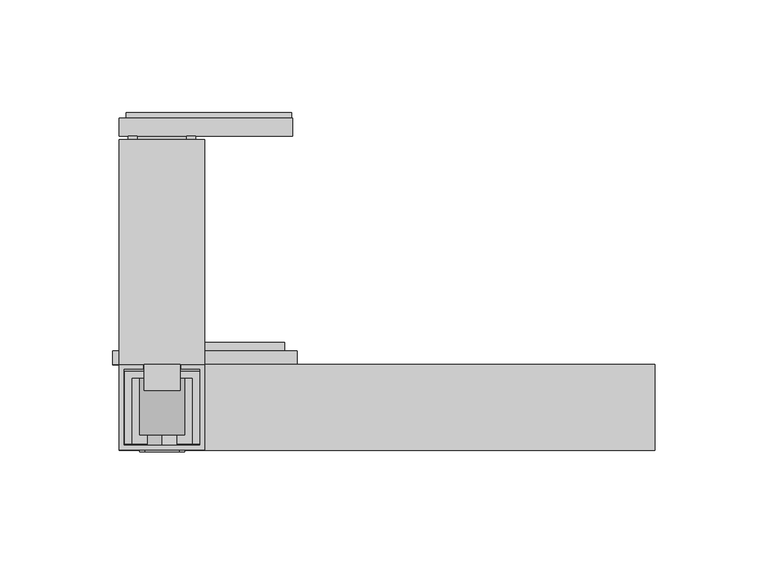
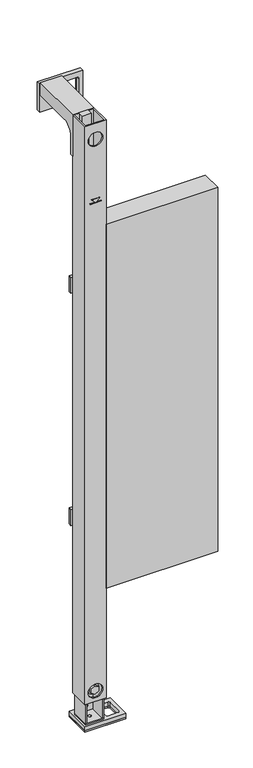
"""IFC4 building model written with IfcOpenShell, lengths in millimetres: flow terminal geometry, nextVIT Stütz-Stützklappgriff-Element : nextVIT Stütz-Stützklappgriff-Element."""

from ifc_helpers import new_model, si_unit, point, frame, frame_2d, origin, origin_with_axes, place, context, project, spatial, polyline, circle_curve, trimmed, segment, composite_curve, outline, extrude, source, transform, mapped, element, save
from ifc_brep_helpers import plane_surface, revolved_surface, advanced_brep


def flow_terminal_e19c1c6e(model_context):
    return source(origin(), model_context, "Body", "SolidModel", [
        extrude(outline(polyline([(-45.5, -102.0), (-45.5, -150.0), (-119.0, -150.0), (-119.0, -102.0), (-45.5, -102.0)]), holes=[composite_curve([segment(polyline([(-52.0, -139.0), (-52.0, -113.0)]), True, "CONTINUOUS"), segment(trimmed(circle_curve(frame_2d((-55.0, -113.0)), 3.0), [point((-52.0, -113.0))], [point((-55.0, -110.0))], True, "CARTESIAN"), True, "CONTINUOUS"), segment(polyline([(-55.0, -110.0), (-72.5, -110.0)]), True, "CONTINUOUS"), segment(trimmed(circle_curve(frame_2d((-72.5, -113.0)), 3.0), [point((-72.5, -110.0))], [point((-75.5, -113.0))], True, "CARTESIAN"), True, "CONTINUOUS"), segment(polyline([(-75.5, -113.0), (-75.5, -139.0)]), True, "CONTINUOUS"), segment(trimmed(circle_curve(frame_2d((-72.5, -139.0)), 3.0), [point((-75.5, -139.0))], [point((-72.5, -142.0))], True, "CARTESIAN"), True, "CONTINUOUS"), segment(polyline([(-72.5, -142.0), (-55.0, -142.0)]), True, "CONTINUOUS"), segment(trimmed(circle_curve(frame_2d((-55.0, -139.0)), 3.0), [point((-55.0, -142.0))], [point((-52.0, -139.0))], True, "CARTESIAN"), True, "CONTINUOUS")], self_intersect=False)]), origin_with_axes(), (0.0, 0.0, 1.0), 2.5),
        extrude(outline(polyline([(-45.5, -102.0), (-45.5, -150.0), (-119.0, -150.0), (-119.0, -102.0), (-45.5, -102.0)]), holes=[composite_curve([segment(polyline([(-52.0, -139.0), (-52.0, -113.0)]), True, "CONTINUOUS"), segment(trimmed(circle_curve(frame_2d((-55.0, -113.0)), 3.0), [point((-52.0, -113.0))], [point((-55.0, -110.0))], True, "CARTESIAN"), True, "CONTINUOUS"), segment(polyline([(-55.0, -110.0), (-72.5, -110.0)]), True, "CONTINUOUS"), segment(trimmed(circle_curve(frame_2d((-72.5, -113.0)), 3.0), [point((-72.5, -110.0))], [point((-75.5, -113.0))], True, "CARTESIAN"), True, "CONTINUOUS"), segment(polyline([(-75.5, -113.0), (-75.5, -139.0)]), True, "CONTINUOUS"), segment(trimmed(circle_curve(frame_2d((-72.5, -139.0)), 3.0), [point((-75.5, -139.0))], [point((-72.5, -142.0))], True, "CARTESIAN"), True, "CONTINUOUS"), segment(polyline([(-72.5, -142.0), (-55.0, -142.0)]), True, "CONTINUOUS"), segment(trimmed(circle_curve(frame_2d((-55.0, -139.0)), 3.0), [point((-55.0, -142.0))], [point((-52.0, -139.0))], True, "CARTESIAN"), True, "CONTINUOUS")], self_intersect=False), composite_curve([segment(polyline([(-104.7, -121.0), (-104.7, -131.0)]), True, "CONTINUOUS"), segment(trimmed(circle_curve(frame_2d((-101.45, -131.0)), 3.25), [point((-104.7, -131.0))], [point((-98.2, -131.0))], True, "CARTESIAN"), True, "CONTINUOUS"), segment(polyline([(-98.2, -131.0), (-98.2, -121.0)]), True, "CONTINUOUS"), segment(trimmed(circle_curve(frame_2d((-101.45, -121.0)), 3.25), [point((-98.2, -121.0))], [point((-104.7, -121.0))], True, "CARTESIAN"), True, "CONTINUOUS")], self_intersect=False)]), frame((0.0, 0.0, 2.5), z_axis=(0.0, 0.0, 1.0), x_axis=(1.0, 0.0, 0.0)), (0.0, 0.0, 1.0), 8.0),
        extrude(outline(polyline([(1141.522581, -42.5), (1141.522581, -116.0), (1093.522581, -116.0), (1093.522581, -42.5), (1141.522581, -42.5)]), holes=[composite_curve([segment(trimmed(circle_curve(frame_2d((1104.522581, -52.0)), 3.0), [point((1104.522581, -49.0))], [point((1101.522581, -52.0))], True, "CARTESIAN"), True, "CONTINUOUS"), segment(polyline([(1101.522581, -52.0), (1101.522581, -69.5)]), True, "CONTINUOUS"), segment(trimmed(circle_curve(frame_2d((1104.522581, -69.5)), 3.0), [point((1101.522581, -69.5))], [point((1104.522581, -72.5))], True, "CARTESIAN"), True, "CONTINUOUS"), segment(polyline([(1104.522581, -72.5), (1130.522581, -72.5)]), True, "CONTINUOUS"), segment(trimmed(circle_curve(frame_2d((1130.522581, -69.5)), 3.0), [point((1130.522581, -72.5))], [point((1133.522581, -69.5))], True, "CARTESIAN"), True, "CONTINUOUS"), segment(polyline([(1133.522581, -69.5), (1133.522581, -52.0)]), True, "CONTINUOUS"), segment(trimmed(circle_curve(frame_2d((1130.522581, -52.0)), 3.0), [point((1133.522581, -52.0))], [point((1130.522581, -49.0))], True, "CARTESIAN"), True, "CONTINUOUS"), segment(polyline([(1130.522581, -49.0), (1104.522581, -49.0)]), True, "CONTINUOUS")], self_intersect=False)]), frame((0.0, -2.5, 0.0), z_axis=(0.0, 1.0, 0.0), x_axis=(0.0, 0.0, 1.0)), (0.0, 0.0, 1.0), 2.5),
        extrude(outline(polyline([(-92.0, -112.0), (-92.0, -123.5), (-108.0, -123.5), (-108.0, -112.0), (-92.0, -112.0)])), frame((0.0, 0.0, 1113.0), z_axis=(0.0, 0.0, 1.0), x_axis=(1.0, 0.0, 0.0)), (0.0, 0.0, 1.0), 35.0),
        extrude(outline(polyline([(1144.022581, -119.0), (1091.022581, -119.0), (1091.022581, -42.0), (1144.022581, -42.0), (1144.022581, -119.0)]), holes=[composite_curve([segment(polyline([(1133.522581, -69.5), (1133.522581, -52.0)]), True, "CONTINUOUS"), segment(trimmed(circle_curve(frame_2d((1130.522581, -52.0)), 3.0), [point((1133.522581, -52.0))], [point((1130.522581, -49.0))], True, "CARTESIAN"), True, "CONTINUOUS"), segment(polyline([(1130.522581, -49.0), (1104.522581, -49.0)]), True, "CONTINUOUS"), segment(trimmed(circle_curve(frame_2d((1104.522581, -52.0)), 3.0), [point((1104.522581, -49.0))], [point((1101.522581, -52.0))], True, "CARTESIAN"), True, "CONTINUOUS"), segment(polyline([(1101.522581, -52.0), (1101.522581, -69.5)]), True, "CONTINUOUS"), segment(trimmed(circle_curve(frame_2d((1104.522581, -69.5)), 3.0), [point((1101.522581, -69.5))], [point((1104.522581, -72.5))], True, "CARTESIAN"), True, "CONTINUOUS"), segment(polyline([(1104.522581, -72.5), (1130.522581, -72.5)]), True, "CONTINUOUS"), segment(trimmed(circle_curve(frame_2d((1130.522581, -69.5)), 3.0), [point((1130.522581, -72.5))], [point((1133.522581, -69.5))], True, "CARTESIAN"), True, "CONTINUOUS")], self_intersect=False)]), frame((0.0, -10.5, 0.0), z_axis=(0.0, 1.0, 0.0), x_axis=(0.0, 0.0, 1.0)), (0.0, 0.0, 1.0), 8.0),
        extrude(outline(polyline([(1128.022581, -89.05), (1128.022581, -110.95), (1145.0, -110.95), (1145.0, -114.95), (1124.5225837, -114.95), (1124.5225837, -85.05), (1145.0, -85.05), (1145.0, -89.05), (1128.022581, -89.05)])), frame((0.0, -105.0, 0.0), z_axis=(0.0, 1.0, 0.0), x_axis=(0.0, 0.0, 1.0)), (0.0, 0.0, 1.0), 94.5),
        advanced_brep(
        [(-81.0, -12.0882353, 1124.0), (-81.0, -12.0882353, 1148.0), (-81.0, -112.0, 1148.0), (-81.0, -112.0, 1069.0231613), (-81.0, -106.0, 1069.0231613), (-81.0, -106.0, 1104.0), (-81.0, -86.0, 1124.0), (-119.0, -12.0882353, 1124.0), (-119.0, -86.0, 1124.0), (-119.0, -106.0, 1104.0), (-119.0, -106.0, 1069.0231613), (-119.0, -112.0, 1069.0231613), (-119.0, -112.0, 1148.0), (-119.0, -12.0882353, 1148.0), (-84.0, -12.0882353, 1124.0), (-84.0, -12.0882353, 1144.0), (-116.0, -12.0882353, 1144.0), (-116.0, -12.0882353, 1124.0), (-116.0, -106.0, 1104.0), (-116.0, -106.0, 1144.0), (-84.0, -106.0, 1144.0), (-84.0, -106.0, 1104.0), (-84.0, -86.0, 1124.0), (-116.0, -86.0, 1124.0)],
        [
            (0, 1),
            (1, 2),
            (2, 3),
            (3, 4),
            (4, 5),
            (5, 6, circle_curve(frame((-81.0, -86.0, 1104.0), z_axis=(-1.0, 0.0, 0.0), x_axis=(0.0, 1.0, 0.0)), 20.0)),
            (6, 0),
            (7, 8),
            (8, 9, circle_curve(frame((-119.0, -86.0, 1104.0), z_axis=(1.0, 0.0, 0.0), x_axis=(0.0, 1.0, 0.0)), 20.0)),
            (9, 10),
            (10, 11),
            (11, 12),
            (12, 13),
            (13, 7),
            (0, 14),
            (14, 15),
            (15, 16),
            (16, 17),
            (17, 7),
            (13, 1),
            (12, 2),
            (11, 3),
            (10, 4),
            (9, 18),
            (18, 19),
            (19, 20),
            (20, 21),
            (21, 5),
            (21, 22, circle_curve(frame((-84.0, -86.0, 1104.0), z_axis=(-1.0, 0.0, 0.0), x_axis=(0.0, 1.0, 0.0)), 20.0)),
            (22, 6),
            (8, 23),
            (23, 18, circle_curve(frame((-116.0, -86.0, 1104.0), z_axis=(1.0, 0.0, 0.0), x_axis=(0.0, 1.0, 0.0)), 20.0)),
            (22, 14),
            (17, 23),
            (20, 15),
            (19, 16),
        ],
        [
            plane_surface(frame((-81.0, -12.0882353, 1124.0), z_axis=(1.0, 0.0, 0.0), x_axis=(0.0, 0.0, 1.0))),
            plane_surface(frame((-119.0, -12.0882353, 1124.0), z_axis=(-1.0, 0.0, 0.0), x_axis=(0.0, 0.0, -1.0))),
            plane_surface(frame((-81.0, -12.0882353, 1124.0), z_axis=(0.0, 1.0, 0.0), x_axis=(-1.0, 0.0, 0.0))),
            plane_surface(frame((-81.0, -12.0882353, 1148.0), z_axis=(0.0, 0.0, 1.0), x_axis=(-1.0, 0.0, 0.0))),
            plane_surface(frame((-81.0, -112.0, 1148.0), z_axis=(0.0, -1.0, 0.0), x_axis=(-1.0, 0.0, 0.0))),
            plane_surface(frame((-81.0, -112.0, 1069.0231613), z_axis=(0.0, 0.0, -1.0), x_axis=(-1.0, 0.0, 0.0))),
            plane_surface(frame((-81.0, -106.0, 1069.0231613), z_axis=(0.0, 1.0, 0.0), x_axis=(-1.0, 0.0, 0.0))),
            revolved_surface(polyline([(-84.0, -66.0, 1104.0), (-81.0, -66.0, 1104.0)]), (-119.0, -86.0, 1104.0), (-1.0, 0.0, 0.0)),
            revolved_surface(polyline([(-119.0, -66.0, 1104.0), (-116.0, -66.0, 1104.0)]), (-119.0, -86.0, 1104.0), (-1.0, 0.0, 0.0)),
            plane_surface(frame((-81.0, -86.0, 1124.0), z_axis=(0.0, 0.0, -1.0), x_axis=(-1.0, 0.0, 0.0))),
            plane_surface(frame((-84.0, -106.0, 1102.9875977), z_axis=(-1.0, 0.0, 0.0), x_axis=(0.0, 1.0, 0.0))),
            plane_surface(frame((-84.0, -106.0, 1144.0), z_axis=(0.0, 0.0, -1.0), x_axis=(0.0, 1.0, 0.0))),
            plane_surface(frame((-116.0, -106.0, 1144.0), z_axis=(1.0, 0.0, 0.0), x_axis=(0.0, 1.0, 0.0))),
        ],
        [
            (0, [[1, 2, 3, 4, 5, 6, 7]]),
            (1, [[8, 9, 10, 11, 12, 13, 14]]),
            (2, [[-1, 15, 16, 17, 18, 19, -14, 20]]),
            (3, [[-2, -20, -13, 21]]),
            (4, [[-3, -21, -12, 22]]),
            (5, [[-4, -22, -11, 23]]),
            (6, [[-5, -23, -10, 24, 25, 26, 27, 28]]),
            (7, [[-6, -28, 29, 30]]),
            (8, [[-9, 31, 32, -24]]),
            (9, [[-7, -30, 33, -15]]),
            (9, [[-8, -19, 34, -31]]),
            (10, [[35, -16, -33, -29, -27]]),
            (11, [[-26, 36, -17, -35]]),
            (12, [[-36, -25, -32, -34, -18]]),
        ],
    ),
        advanced_brep(
        [(-113.6, -147.1, 363.5), (-113.6, -117.9, 363.5), (-86.4, -117.9, 363.5), (-86.4, -147.1, 363.5), (-83.4, -147.1, 363.5), (-83.4, -114.9, 363.5), (-116.6, -114.9, 363.5), (-116.6, -147.1, 363.5), (-113.6, -147.1, 13.5), (-116.6, -147.1, 13.5), (-116.6, -114.9, 13.5), (-83.4, -114.9, 13.5), (-83.4, -147.1, 13.5), (-86.4, -147.1, 13.5), (-86.4, -117.9, 13.5), (-113.6, -117.9, 13.5), (-95.5, -114.9, 23.6801435), (-104.5, -114.9, 23.6801435), (-95.0, -114.9, 37.7), (-95.0, -114.9, 335.5), (-105.0, -114.9, 335.5), (-105.0, -114.9, 37.7), (-104.5, -117.9, 23.6801435), (-95.5, -117.9, 23.6801435), (-95.0, -117.9, 335.5), (-95.0, -117.9, 37.7), (-105.0, -117.9, 37.7), (-105.0, -117.9, 335.5)],
        [
            (0, 1),
            (1, 2),
            (2, 3),
            (3, 4),
            (4, 5),
            (5, 6),
            (6, 7),
            (7, 0),
            (8, 9),
            (9, 10),
            (10, 11),
            (11, 12),
            (12, 13),
            (13, 14),
            (14, 15),
            (15, 8),
            (4, 12),
            (11, 5),
            (10, 6),
            (16, 17, circle_curve(frame((-100.0, -114.9, 23.6801435), z_axis=(0.0, -1.0, 0.0), x_axis=(-1.0, 0.0, 0.0)), 4.5)),
            (17, 16, circle_curve(frame((-100.0, -114.9, 23.6801435), z_axis=(0.0, -1.0, 0.0), x_axis=(-1.0, 0.0, 0.0)), 4.5)),
            (18, 19),
            (19, 20, circle_curve(frame((-100.0, -114.9, 335.5), z_axis=(0.0, -1.0, 0.0), x_axis=(-1.0, 0.0, 0.0)), 5.0)),
            (20, 21),
            (21, 18, circle_curve(frame((-100.0, -114.9, 37.7), z_axis=(0.0, -1.0, 0.0), x_axis=(-1.0, 0.0, 0.0)), 5.0)),
            (9, 7),
            (8, 0),
            (15, 1),
            (14, 2),
            (22, 23, circle_curve(frame((-100.0, -117.9, 23.6801435), z_axis=(0.0, 1.0, 0.0), x_axis=(-1.0, 0.0, 0.0)), 4.5)),
            (23, 22, circle_curve(frame((-100.0, -117.9, 23.6801435), z_axis=(0.0, 1.0, 0.0), x_axis=(-1.0, 0.0, 0.0)), 4.5)),
            (24, 25),
            (25, 26, circle_curve(frame((-100.0, -117.9, 37.7), z_axis=(0.0, 1.0, 0.0), x_axis=(-1.0, 0.0, 0.0)), 5.0)),
            (26, 27),
            (27, 24, circle_curve(frame((-100.0, -117.9, 335.5), z_axis=(0.0, 1.0, 0.0), x_axis=(-1.0, 0.0, 0.0)), 5.0)),
            (13, 3),
            (22, 17),
            (16, 23),
            (24, 19),
            (18, 25),
            (27, 20),
            (26, 21),
        ],
        [
            plane_surface(frame((-113.6, -147.1, 363.5), z_axis=(0.0, 0.0, 1.0), x_axis=(0.0, 1.0, 0.0))),
            plane_surface(frame((-113.6, -147.1, 13.5), z_axis=(0.0, 0.0, -1.0), x_axis=(0.0, -1.0, 0.0))),
            plane_surface(frame((-83.4, -147.1, 363.5), z_axis=(1.0, 0.0, 0.0), x_axis=(0.0, 0.0, -1.0))),
            plane_surface(frame((-83.4, -114.9, 363.5), z_axis=(0.0, 1.0, 0.0), x_axis=(0.0, 0.0, -1.0))),
            plane_surface(frame((-116.6, -114.9, 363.5), z_axis=(-1.0, 0.0, 0.0), x_axis=(0.0, 0.0, -1.0))),
            plane_surface(frame((-116.6, -147.1, 363.5), z_axis=(0.0, -1.0, 0.0), x_axis=(0.0, 0.0, -1.0))),
            plane_surface(frame((-113.6, -147.1, 363.5), z_axis=(1.0, 0.0, 0.0), x_axis=(0.0, 0.0, -1.0))),
            plane_surface(frame((-113.6, -117.9, 363.5), z_axis=(0.0, -1.0, 0.0), x_axis=(0.0, 0.0, -1.0))),
            plane_surface(frame((-86.4, -117.9, 363.5), z_axis=(-1.0, 0.0, 0.0), x_axis=(0.0, 0.0, -1.0))),
            plane_surface(frame((-86.4, -147.1, 363.5), z_axis=(0.0, -1.0, 0.0), x_axis=(0.0, 0.0, -1.0))),
            revolved_surface(polyline([(-104.5, -117.9, 23.6801435), (-104.5, -114.9, 23.6801435)]), (-100.0, -117.9, 23.6801435), (0.0, -1.0, 0.0)),
            plane_surface(frame((-95.0, -117.9, 37.7), z_axis=(-1.0, 0.0, 0.0), x_axis=(0.0, 1.0, 0.0))),
            revolved_surface(polyline([(-105.0, -117.9, 335.5), (-105.0, -114.9, 335.5)]), (-100.0, -117.9, 335.5), (0.0, -1.0, 0.0)),
            plane_surface(frame((-105.0, -117.9, 335.5), z_axis=(1.0, 0.0, 0.0), x_axis=(0.0, 1.0, 0.0))),
            revolved_surface(polyline([(-105.0, -117.9, 37.7), (-105.0, -114.9, 37.7)]), (-100.0, -117.9, 37.7), (0.0, -1.0, 0.0)),
        ],
        [
            (0, [[1, 2, 3, 4, 5, 6, 7, 8]]),
            (1, [[9, 10, 11, 12, 13, 14, 15, 16]]),
            (2, [[-5, 17, -12, 18]]),
            (3, [[-6, -18, -11, 19], [20, 21], [22, 23, 24, 25]]),
            (4, [[-7, -19, -10, 26]]),
            (5, [[-8, -26, -9, 27]]),
            (6, [[-1, -27, -16, 28]]),
            (7, [[-2, -28, -15, 29], [30, 31], [32, 33, 34, 35]]),
            (8, [[-3, -29, -14, 36]]),
            (9, [[-4, -36, -13, -17]]),
            (10, [[37, -20, 38, -30]]),
            (10, [[-37, -31, -38, -21]]),
            (11, [[39, -22, 40, -32]]),
            (12, [[-39, -35, 41, -23]]),
            (13, [[-41, -34, 42, -24]]),
            (14, [[-40, -25, -42, -33]]),
        ],
    ),
        extrude(outline(polyline([(-83.4, -147.1), (-116.6, -147.1), (-116.6, -114.9), (-83.4, -114.9), (-83.4, -147.1)]), holes=[composite_curve([segment(trimmed(circle_curve(frame_2d((-100.0, -131.9)), 2.5), [point((-97.5, -131.9))], [point((-102.5, -131.9))], True, "CARTESIAN"), True, "CONTINUOUS"), segment(trimmed(circle_curve(frame_2d((-100.0, -131.9)), 2.5), [point((-102.5, -131.9))], [point((-97.5, -131.9))], True, "CARTESIAN"), True, "CONTINUOUS")], self_intersect=False)]), frame((0.0, 0.0, 10.5), z_axis=(0.0, 0.0, 1.0), x_axis=(1.0, 0.0, 0.0)), (0.0, 0.0, 1.0), 3.0),
        extrude(outline(composite_curve([segment(trimmed(circle_curve(frame_2d((72.2, -100.0)), 4.0), [point((72.2, -104.0))], [point((72.2, -96.0))], False, "CARTESIAN"), True, "CONTINUOUS"), segment(trimmed(circle_curve(frame_2d((72.2, -100.0)), 4.0), [point((72.2, -96.0))], [point((72.2, -104.0))], False, "CARTESIAN"), True, "CONTINUOUS")], self_intersect=False)), frame((0.0, -117.0, 0.0), z_axis=(0.0, 1.0, 0.0), x_axis=(0.0, 0.0, 1.0)), (0.0, 0.0, 1.0), 19.0),
        extrude(outline(polyline([(-115.0, -109.0), (-85.0, -109.0), (-85.0, -112.0), (-115.0, -112.0), (-115.0, -109.0)])), frame((0.0, 0.0, 52.2), z_axis=(0.0, 0.0, 1.0), x_axis=(1.0, 0.0, 0.0)), (0.0, 0.0, 1.0), 40.0),
        extrude(outline(composite_curve([segment(trimmed(circle_curve(frame_2d((72.2, -100.0)), 10.0), [point((72.2, -110.0))], [point((72.2, -90.0))], False, "CARTESIAN"), True, "CONTINUOUS"), segment(trimmed(circle_curve(frame_2d((72.2, -100.0)), 10.0), [point((72.2, -90.0))], [point((72.2, -110.0))], False, "CARTESIAN"), True, "CONTINUOUS")], self_intersect=False)), frame((0.0, -143.0, 0.0), z_axis=(0.0, 1.0, 0.0), x_axis=(0.0, 0.0, 1.0)), (0.0, 0.0, 1.0), 26.0),
        extrude(outline(polyline([(79.7055535, -100.0), (75.9527767, -106.5), (68.4472233, -106.5), (64.6944465, -100.0), (68.4472233, -93.5), (75.9527767, -93.5), (79.7055535, -100.0)])), frame((0.0, -148.3, 0.0), z_axis=(0.0, 1.0, 0.0), x_axis=(0.0, 0.0, 1.0)), (0.0, 0.0, 1.0), 5.3),
        extrude(outline(polyline([(998.0, -90.0), (998.8, -90.0), (998.8, -99.2), (1005.5, -92.5), (1005.5, -107.5), (998.8, -100.8), (998.8, -109.9917762), (998.0, -109.9917762), (998.0, -90.0)])), frame((0.0, -150.8323234, 0.0), z_axis=(0.0, 1.0, 0.0), x_axis=(0.0, 0.0, 1.0)), (0.0, 0.0, 1.0), 0.8323234),
        advanced_brep(
        [(-119.0, -112.0, 1148.0), (-119.0, -150.0, 1148.0), (-81.0, -150.0, 1148.0), (-81.0, -112.0, 1148.0), (-91.5, -112.0, 1148.0), (-91.5, -114.0, 1148.0), (-83.0, -114.0, 1148.0), (-83.0, -148.0, 1148.0), (-117.0, -148.0, 1148.0), (-117.0, -114.0, 1148.0), (-108.5, -114.0, 1148.0), (-108.5, -112.0, 1148.0), (-119.0, -112.0, 52.0), (-108.5, -112.0, 52.0), (-108.5, -114.0, 52.0), (-117.0, -114.0, 52.0), (-117.0, -148.0, 52.0), (-83.0, -148.0, 52.0), (-83.0, -114.0, 52.0), (-91.5, -114.0, 52.0), (-91.5, -112.0, 52.0), (-81.0, -112.0, 52.0), (-81.0, -150.0, 52.0), (-119.0, -150.0, 52.0), (-87.0, -150.0, 72.0), (-113.0, -150.0, 72.0), (-87.0, -150.0, 1118.0), (-113.0, -150.0, 1118.0), (-113.0, -148.0, 72.0), (-87.0, -148.0, 72.0), (-113.0, -148.0, 1118.0), (-87.0, -148.0, 1118.0)],
        [
            (0, 1),
            (1, 2),
            (2, 3),
            (3, 4),
            (4, 5),
            (5, 6),
            (6, 7),
            (7, 8),
            (8, 9),
            (9, 10),
            (10, 11),
            (11, 0),
            (12, 13),
            (13, 14),
            (14, 15),
            (15, 16),
            (16, 17),
            (17, 18),
            (18, 19),
            (19, 20),
            (20, 21),
            (21, 22),
            (22, 23),
            (23, 12),
            (0, 12),
            (23, 1),
            (22, 2),
            (24, 25, circle_curve(frame((-100.0, -150.0, 72.0), z_axis=(0.0, 1.0, 0.0), x_axis=(1.0, 0.0, 0.0)), 13.0)),
            (25, 24, circle_curve(frame((-100.0, -150.0, 72.0), z_axis=(0.0, 1.0, 0.0), x_axis=(1.0, 0.0, 0.0)), 13.0)),
            (26, 27, circle_curve(frame((-100.0, -150.0, 1118.0), z_axis=(0.0, 1.0, 0.0), x_axis=(1.0, 0.0, 0.0)), 13.0)),
            (27, 26, circle_curve(frame((-100.0, -150.0, 1118.0), z_axis=(0.0, 1.0, 0.0), x_axis=(1.0, 0.0, 0.0)), 13.0)),
            (21, 3),
            (20, 4),
            (19, 5),
            (18, 6),
            (17, 7),
            (16, 8),
            (28, 29, circle_curve(frame((-100.0, -148.0, 72.0), z_axis=(0.0, -1.0, 0.0), x_axis=(1.0, 0.0, 0.0)), 13.0)),
            (29, 28, circle_curve(frame((-100.0, -148.0, 72.0), z_axis=(0.0, -1.0, 0.0), x_axis=(1.0, 0.0, 0.0)), 13.0)),
            (30, 31, circle_curve(frame((-100.0, -148.0, 1118.0), z_axis=(0.0, -1.0, 0.0), x_axis=(1.0, 0.0, 0.0)), 13.0)),
            (31, 30, circle_curve(frame((-100.0, -148.0, 1118.0), z_axis=(0.0, -1.0, 0.0), x_axis=(1.0, 0.0, 0.0)), 13.0)),
            (15, 9),
            (14, 10),
            (13, 11),
            (28, 25),
            (24, 29),
            (30, 27),
            (26, 31),
        ],
        [
            plane_surface(frame((-119.0, -150.0, 1148.0), z_axis=(0.0, 0.0, 1.0), x_axis=(0.0, -1.0, 0.0))),
            plane_surface(frame((-119.0, -150.0, 52.0), z_axis=(0.0, 0.0, -1.0), x_axis=(0.0, 1.0, 0.0))),
            plane_surface(frame((-119.0, -112.0, 1148.0), z_axis=(-1.0, 0.0, 0.0), x_axis=(0.0, 0.0, -1.0))),
            plane_surface(frame((-119.0, -150.0, 1148.0), z_axis=(0.0, -1.0, 0.0), x_axis=(0.0, 0.0, -1.0))),
            plane_surface(frame((-81.0, -150.0, 1148.0), z_axis=(1.0, 0.0, 0.0), x_axis=(0.0, 0.0, -1.0))),
            plane_surface(frame((-81.0, -112.0, 1148.0), z_axis=(0.0, 1.0, 0.0), x_axis=(0.0, 0.0, -1.0))),
            plane_surface(frame((-91.5, -112.0, 1148.0), z_axis=(-1.0, 0.0, 0.0), x_axis=(0.0, 0.0, -1.0))),
            plane_surface(frame((-91.5, -114.0, 1148.0), z_axis=(0.0, -1.0, 0.0), x_axis=(0.0, 0.0, -1.0))),
            plane_surface(frame((-83.0, -114.0, 1148.0), z_axis=(-1.0, 0.0, 0.0), x_axis=(0.0, 0.0, -1.0))),
            plane_surface(frame((-83.0, -148.0, 1148.0), z_axis=(0.0, 1.0, 0.0), x_axis=(0.0, 0.0, -1.0))),
            plane_surface(frame((-117.0, -148.0, 1148.0), z_axis=(1.0, 0.0, 0.0), x_axis=(0.0, 0.0, -1.0))),
            plane_surface(frame((-117.0, -114.0, 1148.0), z_axis=(0.0, -1.0, 0.0), x_axis=(0.0, 0.0, -1.0))),
            plane_surface(frame((-108.5, -114.0, 1148.0), z_axis=(1.0, 0.0, 0.0), x_axis=(0.0, 0.0, -1.0))),
            plane_surface(frame((-108.5, -112.0, 1148.0), z_axis=(0.0, 1.0, 0.0), x_axis=(0.0, 0.0, -1.0))),
            revolved_surface(polyline([(-87.0, -148.0, 72.0), (-87.0, -150.0, 72.0)]), (-100.0, -148.0, 72.0), (0.0, 1.0, 0.0)),
            revolved_surface(polyline([(-87.0, -148.0, 1118.0), (-87.0, -150.0, 1118.0)]), (-100.0, -148.0, 1118.0), (0.0, 1.0, 0.0)),
        ],
        [
            (0, [[1, 2, 3, 4, 5, 6, 7, 8, 9, 10, 11, 12]]),
            (1, [[13, 14, 15, 16, 17, 18, 19, 20, 21, 22, 23, 24]]),
            (2, [[-1, 25, -24, 26]]),
            (3, [[-2, -26, -23, 27], [28, 29], [30, 31]]),
            (4, [[-3, -27, -22, 32]]),
            (5, [[-4, -32, -21, 33]]),
            (6, [[-5, -33, -20, 34]]),
            (7, [[-6, -34, -19, 35]]),
            (8, [[-7, -35, -18, 36]]),
            (9, [[-8, -36, -17, 37], [38, 39], [40, 41]]),
            (10, [[-9, -37, -16, 42]]),
            (11, [[-10, -42, -15, 43]]),
            (12, [[-11, -43, -14, 44]]),
            (13, [[-12, -44, -13, -25]]),
            (14, [[45, -28, 46, -38]]),
            (14, [[-45, -39, -46, -29]]),
            (15, [[47, -30, 48, -40]]),
            (15, [[-47, -41, -48, -31]]),
        ],
    ),
        extrude(outline(polyline([(119.0, -112.0), (119.0, -150.0), (-81.0, -150.0), (-81.0, -112.0), (119.0, -112.0)])), frame((0.0, 0.0, 260.0), z_axis=(0.0, 0.0, 1.0), x_axis=(1.0, 0.0, 0.0)), (0.0, 0.0, 1.0), 690.0),
        extrude(outline(polyline([(840.0, -122.0), (810.0, -122.0), (810.0, -40.0), (840.0, -40.0), (840.0, -122.0)]), holes=[composite_curve([segment(trimmed(circle_curve(frame_2d((825.0, -55.0)), 5.0), [point((825.0, -60.0))], [point((825.0, -50.0))], True, "CARTESIAN"), True, "CONTINUOUS"), segment(trimmed(circle_curve(frame_2d((825.0, -55.0)), 5.0), [point((825.0, -50.0))], [point((825.0, -60.0))], True, "CARTESIAN"), True, "CONTINUOUS")], self_intersect=False), composite_curve([segment(trimmed(circle_curve(frame_2d((825.0, -104.0)), 4.5), [point((825.0, -108.5))], [point((825.0, -99.5))], True, "CARTESIAN"), True, "CONTINUOUS"), segment(trimmed(circle_curve(frame_2d((825.0, -104.0)), 4.5), [point((825.0, -99.5))], [point((825.0, -108.5))], True, "CARTESIAN"), True, "CONTINUOUS")], self_intersect=False)]), frame((0.0, -112.0, 0.0), z_axis=(0.0, 1.0, 0.0), x_axis=(0.0, 0.0, 1.0)), (0.0, 0.0, 1.0), 6.0),
        extrude(outline(polyline([(400.0, -40.0), (400.0, -122.0), (370.0, -122.0), (370.0, -40.0), (400.0, -40.0)]), holes=[composite_curve([segment(trimmed(circle_curve(frame_2d((385.0, -55.0)), 5.0), [point((385.0, -50.0))], [point((385.0, -60.0))], True, "CARTESIAN"), True, "CONTINUOUS"), segment(trimmed(circle_curve(frame_2d((385.0, -55.0)), 5.0), [point((385.0, -60.0))], [point((385.0, -50.0))], True, "CARTESIAN"), True, "CONTINUOUS")], self_intersect=False), composite_curve([segment(trimmed(circle_curve(frame_2d((385.0, -104.0)), 4.5), [point((385.0, -99.5))], [point((385.0, -108.5))], True, "CARTESIAN"), True, "CONTINUOUS"), segment(trimmed(circle_curve(frame_2d((385.0, -104.0)), 4.5), [point((385.0, -108.5))], [point((385.0, -99.5))], True, "CARTESIAN"), True, "CONTINUOUS")], self_intersect=False)]), frame((0.0, -112.0, 0.0), z_axis=(0.0, 1.0, 0.0), x_axis=(0.0, 0.0, 1.0)), (0.0, 0.0, 1.0), 6.0),
    ])


if __name__ == "__main__":
    model = new_model("IFC4")
    model_context = context("Model", 3, world=origin())
    ifc_project = project(units=[si_unit("LENGTHUNIT", "METRE", prefix="MILLI")], contexts=[model_context])
    site = spatial("IfcSite", under=ifc_project)
    building = spatial("IfcBuilding", under=site)
    placement = place(None, origin())
    flow_terminal_shape = flow_terminal_e19c1c6e(model_context)
    element("IfcFlowTerminal", 1, ObjectType="nextVIT Stütz-Stützklappgriff-Element : nextVIT Stütz-Stützklappgriff-Element", at=placement, inside=building, context=model_context, shape_type="MappedRepresentation", body=[
        mapped(flow_terminal_shape, transform((0.0, 0.0, 0.0), x_axis=(1.0, 0.0, 0.0), y_axis=(0.0, 1.0, 0.0), z_axis=(0.0, 0.0, 1.0))),
    ])
    save(model, "model.ifc")
